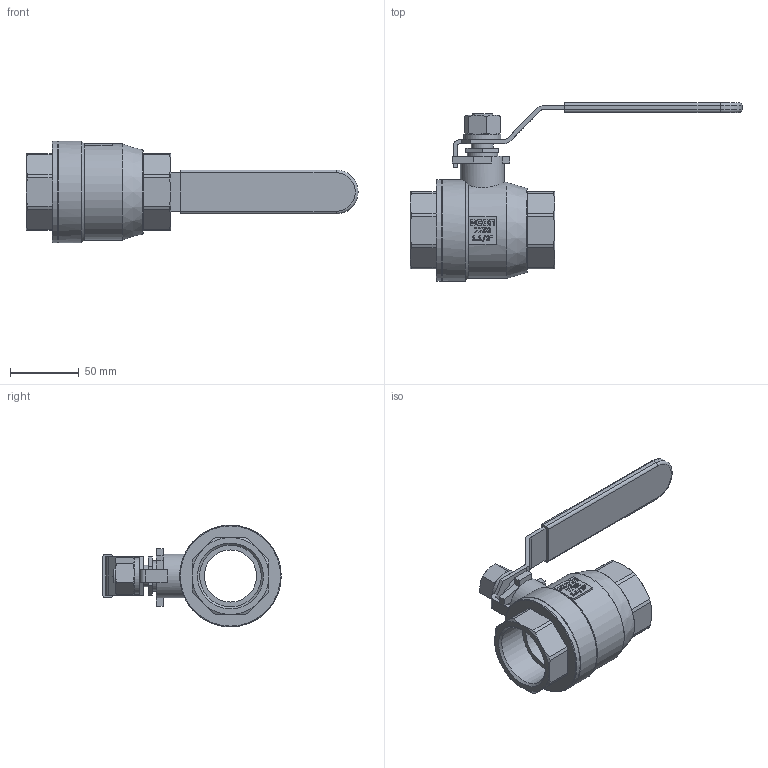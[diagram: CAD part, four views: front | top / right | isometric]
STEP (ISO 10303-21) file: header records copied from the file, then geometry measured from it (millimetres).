
FILE_DESCRIPTION(/* description */ ('Eriks item no: 12427455'),/* implementation_level */ '2;1');
FILE_NAME(/* name */ '7752-DN40-FB-1000PSI-BSPP.stp',/* time_stamp */ '2024-02-16T16:35:30+01:00',/* author */ ('roger.thijssen'),/* organization */ (''),/* preprocessor_version */ 'ST-DEVELOPER v19.2',/* originating_system */ 'Autodesk Inventor 2024',/* authorisation */ '');
FILE_SCHEMA (('AUTOMOTIVE_DESIGN { 1 0 10303 214 3 1 1 }'));
Length unit declared in the file: millimetre
Products named in the file (1): Ball valve, 7752-DN40-FB-1000PSI-BSPP
Bounding box: 241.75 x 130 x 74 mm (x, y, z)
Volume: 284357.4 mm3; surface area: 60692.5 mm2
Topology: 1 solids, 1 shells, 1006 faces, 2756 edges, 1823 vertices
Faces by surface type: plane 818, bspline 74, cylinder 73, cone 34, torus 7
Full cylindrical faces by diameter (mm): 8 x2, 16 x1, 22 x1, 27 x1, 32 x1, 38 x1, 44.845 x2, 70 x1, 74 x2
Entity records: 33126 total; most frequent: CARTESIAN_POINT 6989, ORIENTED_EDGE 5512, DIRECTION 4612, EDGE_CURVE 2756, LINE 2340, VECTOR 2340, VERTEX_POINT 1823, AXIS2_PLACEMENT_3D 1136
